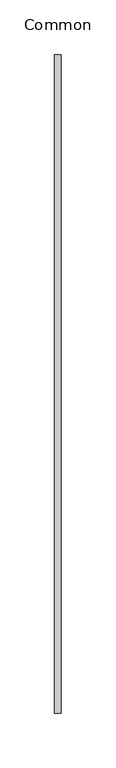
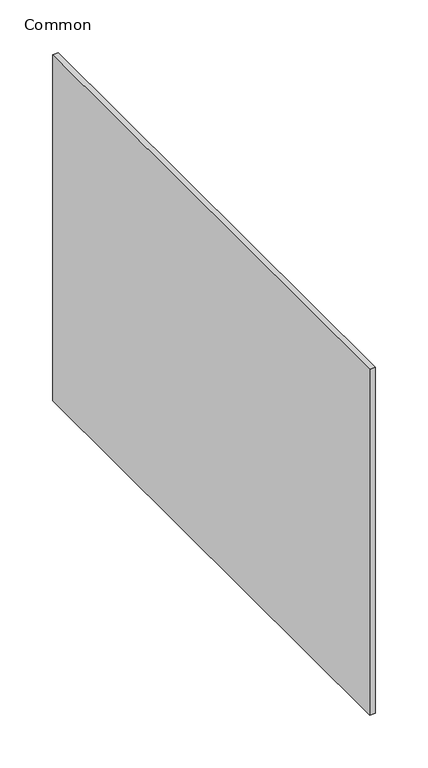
"""IFC4 building model written with IfcOpenShell, lengths in millimetres: duct fitting geometry, 071_角型ユニオン : Common."""

from ifc_helpers import new_model, si_unit, frame, origin, place, context, project, spatial, polyline, outline, extrude, source, transform, mapped, element, save


def common_5ad67e70(model_context):
    return source(origin(), model_context, "Body", "SweptSolid", [
        extrude(outline(polyline([(3.0, 300.0), (3.0, -300.0), (-3.0, -300.0), (-3.0, 300.0), (3.0, 300.0)])), frame((0.0, 0.0, -200.0), z_axis=(0.0, 0.0, 1.0), x_axis=(1.0, 0.0, 0.0)), (0.0, 0.0, 1.0), 400.0),
    ])


if __name__ == "__main__":
    model = new_model("IFC4")
    model_context = context("Model", 3, world=origin())
    ifc_project = project(units=[si_unit("LENGTHUNIT", "METRE", prefix="MILLI")], contexts=[model_context])
    site = spatial("IfcSite", under=ifc_project)
    building = spatial("IfcBuilding", under=site)
    placement = place(None, origin())
    common_shape = common_5ad67e70(model_context)
    element("IfcDuctFitting", 1, ObjectType="071_角型ユニオン : Common", at=placement, inside=building, context=model_context, shape_type="MappedRepresentation", body=[
        mapped(common_shape, transform((0.0, 0.0, 0.0), x_axis=(1.0, 0.0, 0.0), y_axis=(0.0, 1.0, 0.0), z_axis=(0.0, 0.0, 1.0))),
    ])
    save(model, "model.ifc")
